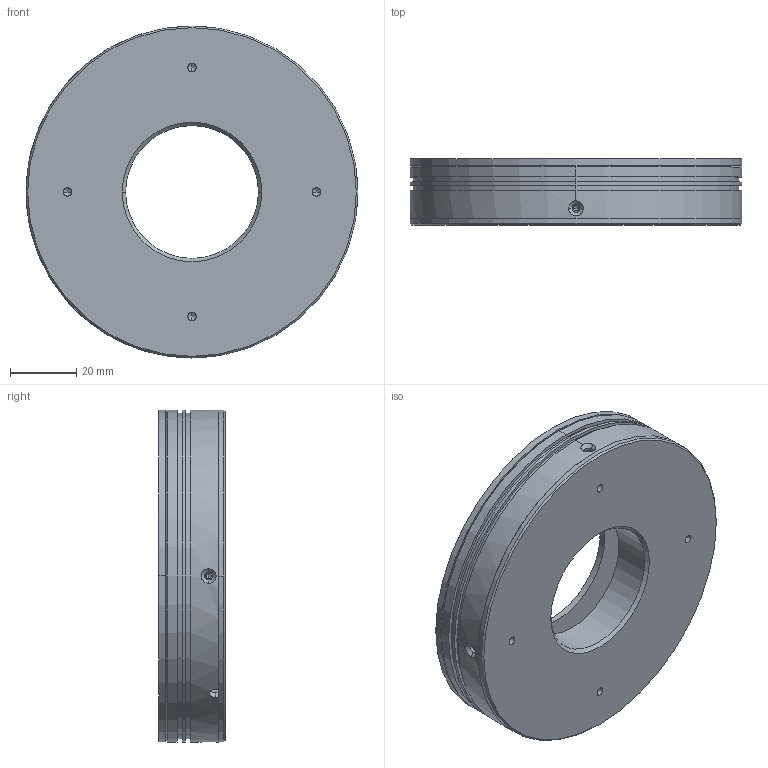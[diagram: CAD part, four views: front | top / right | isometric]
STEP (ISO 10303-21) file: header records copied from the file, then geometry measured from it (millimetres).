
FILE_DESCRIPTION (( 'STEP AP203' ), '1' );
FILE_NAME ('P-RL-100-90-00.STEP', '2025-09-17T01:12:45', ( '' ), ( '' ), 'SwSTEP 2.0', 'SolidWorks 2022', '' );
FILE_SCHEMA (( 'CONFIG_CONTROL_DESIGN' ));
Length unit declared in the file: millimetre
Products named in the file (4): P-RL-100-90-003; P-RL-100-90-002; P-RL-100-90-00; P-RL-100-90-001
Assembly tree (3 placements, depth 2):
  P-RL-100-90-00
    P-RL-100-90-001
    P-RL-100-90-002
    P-RL-100-90-003
Bounding box: 100 x 20 x 100 mm (x, y, z)
Volume: 69861.4 mm3; surface area: 45119 mm2
Topology: 3 solids, 3 shells, 142 faces, 354 edges, 206 vertices
Faces by surface type: cylinder 71, cone 56, plane 15
Entity records: 4964 total; most frequent: CARTESIAN_POINT 1232, DIRECTION 730, ORIENTED_EDGE 660, EDGE_CURVE 330, AXIS2_PLACEMENT_3D 296, VERTEX_POINT 206, EDGE_LOOP 176, CIRCLE 148
